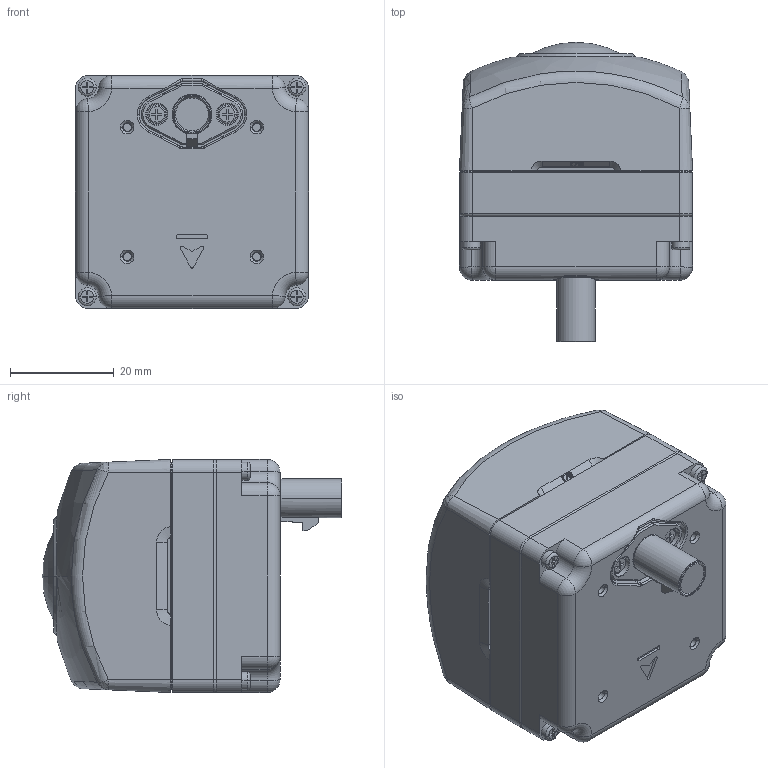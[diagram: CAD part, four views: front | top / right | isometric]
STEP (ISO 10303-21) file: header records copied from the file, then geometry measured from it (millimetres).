
FILE_DESCRIPTION((''),'2;1');
FILE_NAME('C2_ANGLE_176_3D_20230615_NON_VI','2023-06-16T',('WeiWei Lin'),(''),'PRO/ENGINEER BY PARAMETRIC TECHNOLOGY CORPORATION, 2013320','PRO/ENGINEER BY PARAMETRIC TECHNOLOGY CORPORATION, 2013320','');
FILE_SCHEMA(('CONFIG_CONTROL_DESIGN'));
Length unit declared in the file: millimetre
Products named in the file (1): C2_ANGLE_176_3D_20230615_NON_VI
Bounding box: 45 x 57.8 x 45 mm (x, y, z)
Volume: 70094.1 mm3; surface area: 18849.5 mm2
Topology: 1 solids, 18 shells, 600 faces, 1516 edges, 953 vertices
Faces by surface type: plane 311, cylinder 148, cone 75, torus 36, bspline 16, sphere 14
Entity records: 18835 total; most frequent: CARTESIAN_POINT 4258, DIRECTION 3053, ORIENTED_EDGE 2992, EDGE_CURVE 1498, AXIS2_PLACEMENT_3D 1046, VECTOR 961, LINE 961, VERTEX_POINT 953
